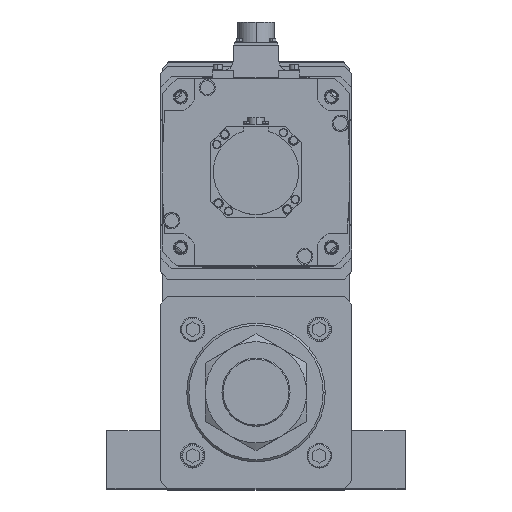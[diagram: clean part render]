
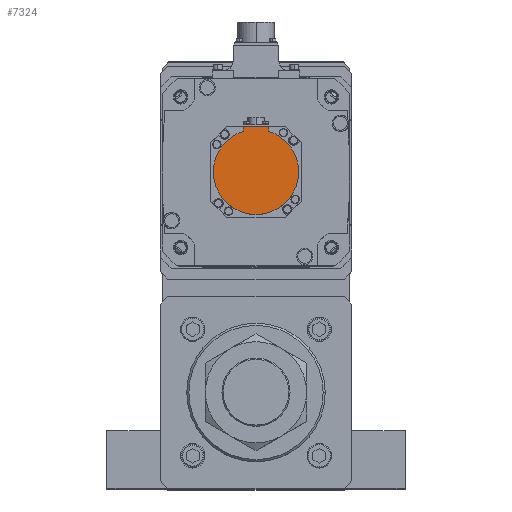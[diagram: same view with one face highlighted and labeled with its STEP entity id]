
A CAD part, top view. The second image highlights one B-rep face of the part: STEP entity #7324.
In plain terms, the highlighted planar face has unit normal (0, 0, 1) as drawn and (0, 0, -1) by its records, which use the part's own axes.
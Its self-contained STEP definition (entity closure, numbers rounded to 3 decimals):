
#756 = DIRECTION ( 'NONE',  ( 0., 0., 1. ) ) ;
#886 = VECTOR ( 'NONE', #35434, 1000. ) ;
#1442 = DIRECTION ( 'NONE',  ( 0., 0., 1. ) ) ;
#3341 = ORIENTED_EDGE ( 'NONE', *, *, #48792, .F. ) ;
#3895 = CIRCLE ( 'NONE', #40583, 40. ) ;
#4558 = CARTESIAN_POINT ( 'NONE',  ( 0., 0., -178.5 ) ) ;
#4598 = VERTEX_POINT ( 'NONE', #5082 ) ;
#4888 = CARTESIAN_POINT ( 'NONE',  ( 12., -38.158, -178.5 ) ) ;
#5082 = CARTESIAN_POINT ( 'NONE',  ( -12., -38.158, -178.5 ) ) ;
#6073 = ORIENTED_EDGE ( 'NONE', *, *, #14695, .F. ) ;
#6285 = ORIENTED_EDGE ( 'NONE', *, *, #38824, .T. ) ;
#7152 = DIRECTION ( 'NONE',  ( 1., 0., 0. ) ) ;
#7257 = VERTEX_POINT ( 'NONE', #29289 ) ;
#7324 = ADVANCED_FACE ( 'NONE', ( #44505 ), #42395, .F. ) ;
#10096 = VERTEX_POINT ( 'NONE', #18314 ) ;
#13917 = CARTESIAN_POINT ( 'NONE',  ( 0., -1.249, -178.5 ) ) ;
#14339 = DIRECTION ( 'NONE',  ( 1., 0., 0. ) ) ;
#14653 = LINE ( 'NONE', #51978, #28100 ) ;
#14695 = EDGE_CURVE ( 'NONE', #35817, #35868, #3895, .T. ) ;
#15283 = VERTEX_POINT ( 'NONE', #49184 ) ;
#15501 = DIRECTION ( 'NONE',  ( -1., 0., 0. ) ) ;
#15851 = EDGE_CURVE ( 'NONE', #7257, #4598, #14653, .T. ) ;
#16196 = ORIENTED_EDGE ( 'NONE', *, *, #48720, .F. ) ;
#18314 = CARTESIAN_POINT ( 'NONE',  ( -40., 0., -178.5 ) ) ;
#19837 = DIRECTION ( 'NONE',  ( 0., 0., 1. ) ) ;
#20629 = DIRECTION ( 'NONE',  ( 1., 0., 0. ) ) ;
#21396 = LINE ( 'NONE', #47469, #886 ) ;
#21678 = CARTESIAN_POINT ( 'NONE',  ( 0., 0., -178.5 ) ) ;
#22157 = EDGE_CURVE ( 'NONE', #10096, #4598, #27075, .T. ) ;
#22622 = LINE ( 'NONE', #40254, #46401 ) ;
#27075 = CIRCLE ( 'NONE', #32924, 40. ) ;
#28100 = VECTOR ( 'NONE', #51439, 1000. ) ;
#29289 = CARTESIAN_POINT ( 'NONE',  ( -12., -42.5, -178.5 ) ) ;
#30335 = AXIS2_PLACEMENT_3D ( 'NONE', #13917, #38269, #33753 ) ;
#30353 = ORIENTED_EDGE ( 'NONE', *, *, #15851, .T. ) ;
#30681 = ORIENTED_EDGE ( 'NONE', *, *, #22157, .F. ) ;
#30911 = CIRCLE ( 'NONE', #39582, 40. ) ;
#32924 = AXIS2_PLACEMENT_3D ( 'NONE', #21678, #1442, #14339 ) ;
#33753 = DIRECTION ( 'NONE',  ( 1., 0., 0. ) ) ;
#34364 = CARTESIAN_POINT ( 'NONE',  ( 40., 0., -178.5 ) ) ;
#35434 = DIRECTION ( 'NONE',  ( 0., 1., 0. ) ) ;
#35817 = VERTEX_POINT ( 'NONE', #4888 ) ;
#35868 = VERTEX_POINT ( 'NONE', #34364 ) ;
#38269 = DIRECTION ( 'NONE',  ( 0., 0., 1. ) ) ;
#38824 = EDGE_CURVE ( 'NONE', #15283, #7257, #22622, .T. ) ;
#39582 = AXIS2_PLACEMENT_3D ( 'NONE', #40285, #19837, #7152 ) ;
#39730 = EDGE_LOOP ( 'NONE', ( #30353, #30681, #3341, #6073, #16196, #6285 ) ) ;
#40254 = CARTESIAN_POINT ( 'NONE',  ( 0., -42.5, -178.5 ) ) ;
#40285 = CARTESIAN_POINT ( 'NONE',  ( 0., 0., -178.5 ) ) ;
#40583 = AXIS2_PLACEMENT_3D ( 'NONE', #4558, #756, #20629 ) ;
#42395 = PLANE ( 'NONE',  #30335 ) ;
#44505 = FACE_OUTER_BOUND ( 'NONE', #39730, .T. ) ;
#46401 = VECTOR ( 'NONE', #15501, 1000. ) ;
#47469 = CARTESIAN_POINT ( 'NONE',  ( 12., -1.249, -178.5 ) ) ;
#48720 = EDGE_CURVE ( 'NONE', #15283, #35817, #21396, .T. ) ;
#48792 = EDGE_CURVE ( 'NONE', #35868, #10096, #30911, .T. ) ;
#49184 = CARTESIAN_POINT ( 'NONE',  ( 12., -42.5, -178.5 ) ) ;
#51439 = DIRECTION ( 'NONE',  ( 0., 1., 0. ) ) ;
#51978 = CARTESIAN_POINT ( 'NONE',  ( -12., -40.329, -178.5 ) ) ;
